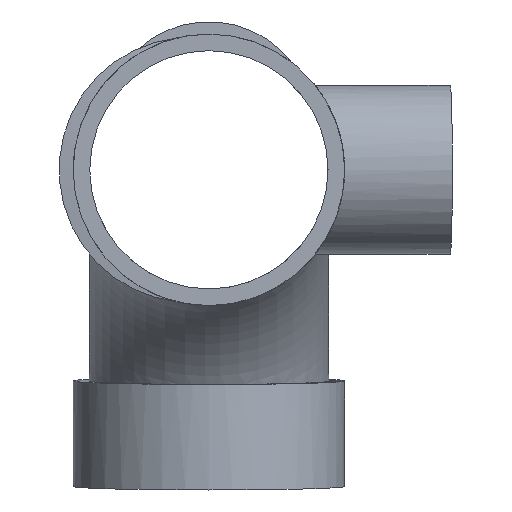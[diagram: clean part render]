
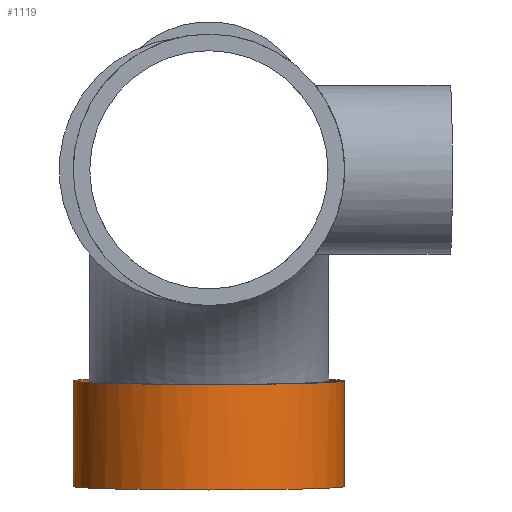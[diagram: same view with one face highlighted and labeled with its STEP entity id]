
A CAD part, front view. The second image highlights one B-rep face of the part: STEP entity #1119.
In plain terms, the highlighted cylindrical face has radius 45 mm (diameter 90 mm), a full revolution.
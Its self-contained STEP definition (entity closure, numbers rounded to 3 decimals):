
#212=CYLINDRICAL_SURFACE($,#1270,45.);
#260=FACE_BOUND($,#442,.T.);
#328=FACE_OUTER_BOUND($,#441,.T.);
#441=EDGE_LOOP($,(#1017));
#442=EDGE_LOOP($,(#1018));
#515=CIRCLE($,#1269,45.);
#516=CIRCLE($,#1271,45.);
#617=VERTEX_POINT($,#2676);
#618=VERTEX_POINT($,#2679);
#751=EDGE_CURVE($,#617,#617,#515,.T.);
#752=EDGE_CURVE($,#618,#618,#516,.T.);
#1017=ORIENTED_EDGE($,*,*,#752,.T.);
#1018=ORIENTED_EDGE($,*,*,#751,.F.);
#1119=ADVANCED_FACE($,(#328,#260),#212,.T.);
#1269=AXIS2_PLACEMENT_3D($,#2677,#1598,#1599);
#1270=AXIS2_PLACEMENT_3D($,#2678,#1600,#1601);
#1271=AXIS2_PLACEMENT_3D($,#2680,#1602,#1603);
#1598=DIRECTION('center_axis',(-1.,0.026,0.));
#1599=DIRECTION('ref_axis',(-0.026,-1.,0.));
#1600=DIRECTION('center_axis',(1.,-0.026,0.));
#1601=DIRECTION('ref_axis',(-0.026,-1.,0.));
#1602=DIRECTION('center_axis',(-1.,0.026,0.));
#1603=DIRECTION('ref_axis',(-0.026,-1.,0.));
#2676=CARTESIAN_POINT('',(-103.786,167.733,0.));
#2677=CARTESIAN_POINT('Origin',(-104.964,122.749,0.));
#2678=CARTESIAN_POINT('Origin',(-104.964,122.749,0.));
#2679=CARTESIAN_POINT('',(-68.798,166.817,0.));
#2680=CARTESIAN_POINT('Origin',(-69.976,121.832,0.));
